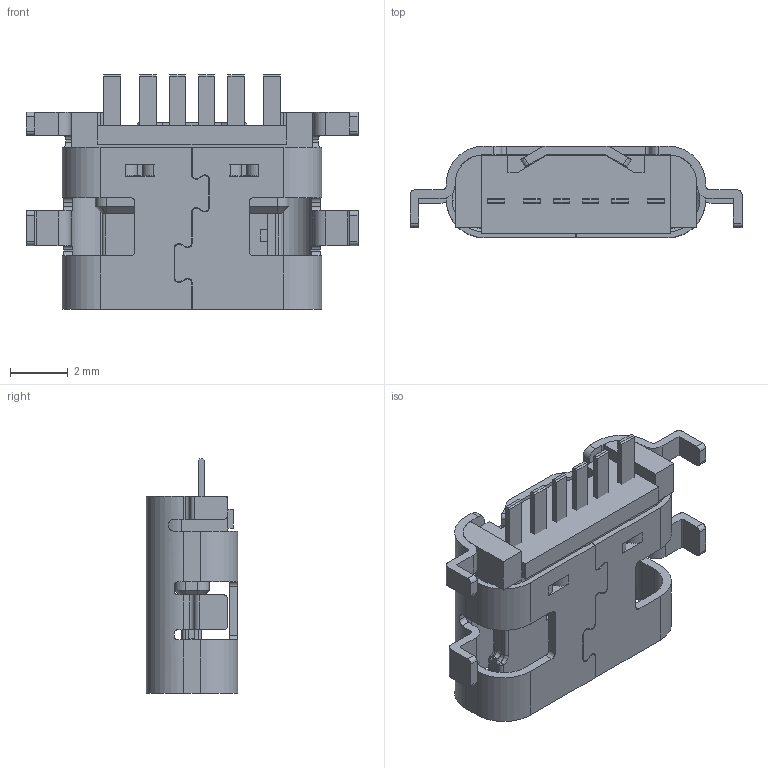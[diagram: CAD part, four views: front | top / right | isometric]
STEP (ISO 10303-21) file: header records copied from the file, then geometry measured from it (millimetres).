
FILE_DESCRIPTION (( 'STEP AP203' ), '1' );
FILE_NAME ('TYPE-C³Á°å1.STEP', '2021-10-22T12:35:56', ( '' ), ( '' ), 'SwSTEP 2.0', 'SolidWorks 2020', '' );
FILE_SCHEMA (( 'CONFIG_CONTROL_DESIGN' ));
Length unit declared in the file: millimetre
Products named in the file (4): BOTTOM-HOUSING0; p3_2; TYPE-C麥啣1; typec-6pin麥啣1.2傷赽
Assembly tree (3 placements, depth 2):
  TYPE-C麥啣1
    p3_2
    typec-6pin麥啣1.2傷赽
    BOTTOM-HOUSING0
Bounding box: 11.45 x 3.16 x 8.1 mm (x, y, z)
Volume: 94.5 mm3; surface area: 523.2 mm2
Topology: 8 solids, 8 shells, 714 faces, 2067 edges, 1350 vertices
Faces by surface type: plane 472, cylinder 216, cone 14, bspline 12
Entity records: 24313 total; most frequent: CARTESIAN_POINT 4787, ORIENTED_EDGE 4126, DIRECTION 3873, EDGE_CURVE 2063, VECTOR 1573, LINE 1573, VERTEX_POINT 1350, AXIS2_PLACEMENT_3D 1150
